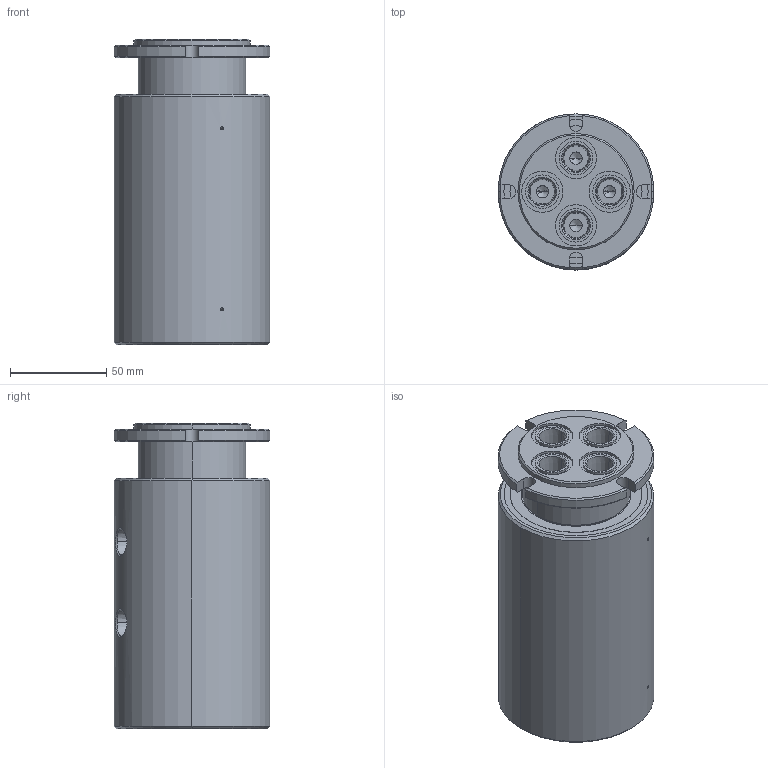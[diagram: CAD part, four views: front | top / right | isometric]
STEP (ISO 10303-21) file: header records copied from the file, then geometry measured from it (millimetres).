
FILE_DESCRIPTION (( 'STEP AP214' ), '1' );
FILE_NAME ('GP(M)-240.STEP', '2013-02-05T22:24:45', ( '' ), ( '' ), 'SwSTEP 2.0', 'SolidWorks 2011', '' );
FILE_SCHEMA (( 'AUTOMOTIVE_DESIGN' ));
Length unit declared in the file: inch
Products named in the file (1): GP(M)-240
Bounding box: 80.95 x 80.95 x 158.57 mm (x, y, z)
Volume: 725324.2 mm3; surface area: 63403.6 mm2
Topology: 1 solids, 1 shells, 204 faces, 486 edges, 298 vertices
Faces by surface type: cylinder 85, cone 66, plane 43, bspline 8, torus 2
Entity records: 7226 total; most frequent: CARTESIAN_POINT 2001, DIRECTION 1010, ORIENTED_EDGE 916, EDGE_CURVE 458, AXIS2_PLACEMENT_3D 415, VERTEX_POINT 298, EDGE_LOOP 246, CIRCLE 218
